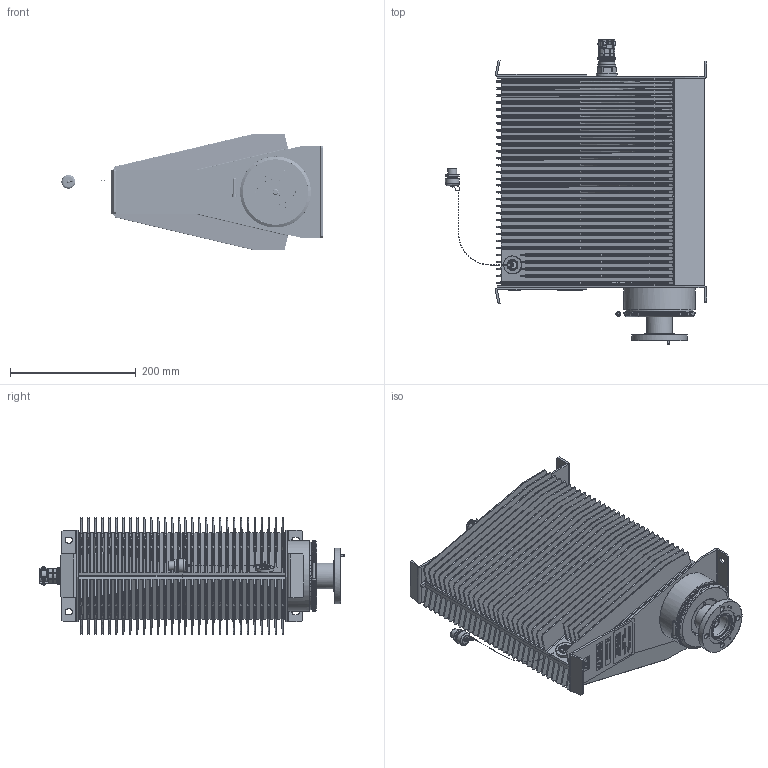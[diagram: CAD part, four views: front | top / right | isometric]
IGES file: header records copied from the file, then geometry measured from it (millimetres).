
Start section: C
Global section: file name: 8862D.igs; native system: By Siemens PLM Incorporated; preprocessor: XPlus GENERIC/IGES 17.0.49; author: Author; organization: Title; date: 20141219.154953; units: millimetre
Bounding box: 415.9 x 486.6 x 185.56 mm (x, y, z)
Surface area: 1926126.7 mm2 (no closed solid volume)
Topology: 0 solids, 0 shells, 6800 faces, 40522 edges, 40514 vertices
Faces by surface type: bspline 6800
